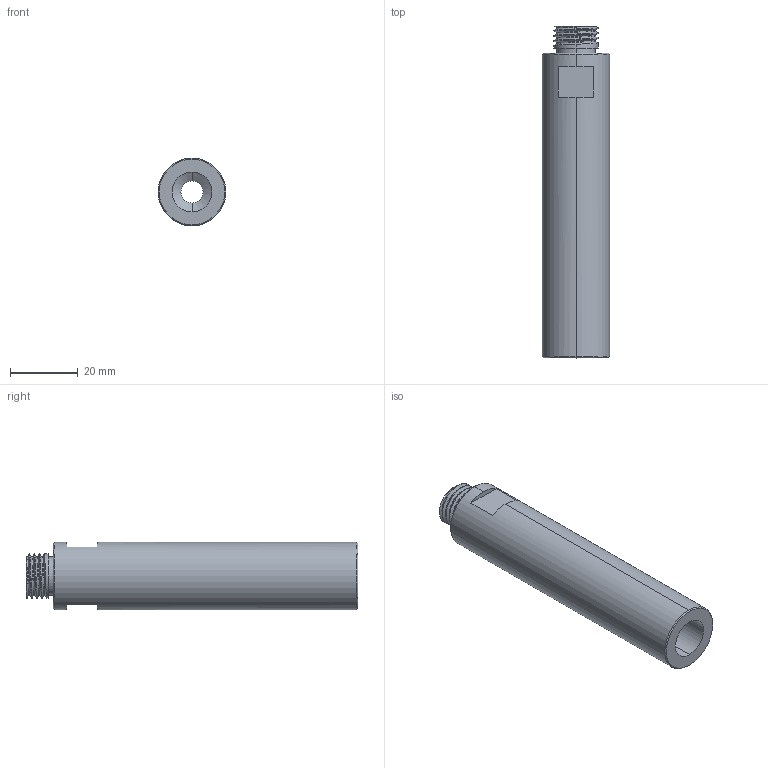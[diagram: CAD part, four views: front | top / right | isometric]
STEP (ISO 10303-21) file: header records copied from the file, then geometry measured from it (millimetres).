
FILE_DESCRIPTION (( 'STEP AP203' ), '1' );
FILE_NAME ('SMBY2098G14.STEP', '2024-10-11T06:08:00', ( '微软用户' ), ( '微软中国' ), 'SwSTEP 2.0', 'SolidWorks 2018', '' );
FILE_SCHEMA (( 'CONFIG_CONTROL_DESIGN' ));
Length unit declared in the file: millimetre
Products named in the file (1): SMBY2098G14
Bounding box: 20 x 98 x 20 mm (x, y, z)
Volume: 19534.4 mm3; surface area: 10108.8 mm2
Topology: 1 solids, 1 shells, 45 faces, 106 edges, 66 vertices
Faces by surface type: cylinder 20, plane 12, cone 6, torus 4, bspline 3
Entity records: 2265 total; most frequent: CARTESIAN_POINT 1196, ORIENTED_EDGE 212, DIRECTION 209, EDGE_CURVE 106, AXIS2_PLACEMENT_3D 87, VERTEX_POINT 66, EDGE_LOOP 50, ADVANCED_FACE 45
